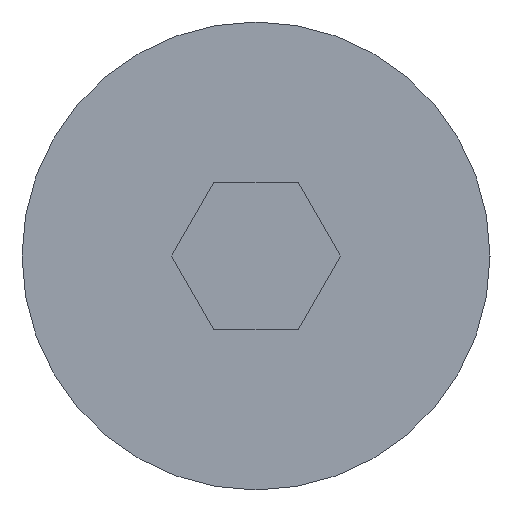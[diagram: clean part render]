
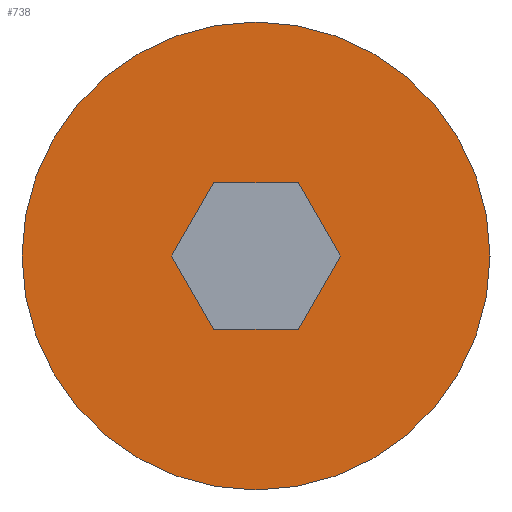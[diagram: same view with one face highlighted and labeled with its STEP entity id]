
A CAD part, left-side view. The second image highlights one B-rep face of the part: STEP entity #738.
In plain terms, the highlighted planar face has unit normal (-1, 0, 0).
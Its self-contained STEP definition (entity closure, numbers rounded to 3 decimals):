
#3 = DIRECTION ( 'NONE',  ( 0., -1., 0. ) ) ;
#18 = CARTESIAN_POINT ( 'NONE',  ( -121.3, 33.278, 84.75 ) ) ;
#44 = LINE ( 'NONE', #278, #562 ) ;
#45 = DIRECTION ( 'NONE',  ( 1., 0., 0. ) ) ;
#46 = LINE ( 'NONE', #446, #321 ) ;
#63 = ORIENTED_EDGE ( 'NONE', *, *, #170, .T. ) ;
#122 = PLANE ( 'NONE',  #162 ) ;
#127 = LINE ( 'NONE', #249, #202 ) ;
#128 = VERTEX_POINT ( 'NONE', #18 ) ;
#141 = AXIS2_PLACEMENT_3D ( 'NONE', #561, #45, #564 ) ;
#154 = DIRECTION ( 'NONE',  ( 0., 1., 0. ) ) ;
#162 = AXIS2_PLACEMENT_3D ( 'NONE', #646, #468, #353 ) ;
#163 = CARTESIAN_POINT ( 'NONE',  ( -121.3, 35.361, 84.75 ) ) ;
#165 = VERTEX_POINT ( 'NONE', #530 ) ;
#167 = DIRECTION ( 'NONE',  ( 0., -0.5, -0.866 ) ) ;
#170 = EDGE_CURVE ( 'NONE', #303, #165, #127, .T. ) ;
#185 = DIRECTION ( 'NONE',  ( 0., -0.5, 0.866 ) ) ;
#186 = VERTEX_POINT ( 'NONE', #586 ) ;
#189 = ORIENTED_EDGE ( 'NONE', *, *, #355, .T. ) ;
#202 = VECTOR ( 'NONE', #185, 1000. ) ;
#210 = EDGE_LOOP ( 'NONE', ( #382, #664 ) ) ;
#217 = ORIENTED_EDGE ( 'NONE', *, *, #375, .T. ) ;
#220 = CARTESIAN_POINT ( 'NONE',  ( -121.3, 34., 86. ) ) ;
#221 = LINE ( 'NONE', #163, #341 ) ;
#249 = CARTESIAN_POINT ( 'NONE',  ( -121.3, 35.152, 86.504 ) ) ;
#250 = FACE_OUTER_BOUND ( 'NONE', #210, .T. ) ;
#273 = CIRCLE ( 'NONE', #694, 4. ) ;
#278 = CARTESIAN_POINT ( 'NONE',  ( -121.3, 32.987, 86.746 ) ) ;
#280 = EDGE_CURVE ( 'NONE', #128, #333, #221, .T. ) ;
#286 = CARTESIAN_POINT ( 'NONE',  ( -121.3, 34.722, 84.75 ) ) ;
#290 = DIRECTION ( 'NONE',  ( 0., 1., 0. ) ) ;
#297 = EDGE_CURVE ( 'NONE', #333, #303, #392, .T. ) ;
#303 = VERTEX_POINT ( 'NONE', #521 ) ;
#315 = VERTEX_POINT ( 'NONE', #620 ) ;
#321 = VECTOR ( 'NONE', #673, 1000. ) ;
#333 = VERTEX_POINT ( 'NONE', #286 ) ;
#336 = DIRECTION ( 'NONE',  ( 0., 0.5, 0.866 ) ) ;
#341 = VECTOR ( 'NONE', #290, 1000. ) ;
#353 = DIRECTION ( 'NONE',  ( 0., 0., 1. ) ) ;
#355 = EDGE_CURVE ( 'NONE', #186, #128, #46, .T. ) ;
#375 = EDGE_CURVE ( 'NONE', #315, #186, #44, .T. ) ;
#382 = ORIENTED_EDGE ( 'NONE', *, *, #595, .F. ) ;
#384 = EDGE_CURVE ( 'NONE', #165, #315, #509, .T. ) ;
#392 = LINE ( 'NONE', #617, #472 ) ;
#421 = FACE_BOUND ( 'NONE', #578, .T. ) ;
#424 = CARTESIAN_POINT ( 'NONE',  ( -121.3, 34., 82. ) ) ;
#426 = VERTEX_POINT ( 'NONE', #745 ) ;
#429 = ORIENTED_EDGE ( 'NONE', *, *, #297, .T. ) ;
#439 = DIRECTION ( 'NONE',  ( 1., 0., 0. ) ) ;
#446 = CARTESIAN_POINT ( 'NONE',  ( -121.3, 33.348, 84.629 ) ) ;
#468 = DIRECTION ( 'NONE',  ( -1., 0., 0. ) ) ;
#472 = VECTOR ( 'NONE', #336, 1000. ) ;
#496 = EDGE_CURVE ( 'NONE', #675, #426, #668, .T. ) ;
#509 = LINE ( 'NONE', #681, #600 ) ;
#521 = CARTESIAN_POINT ( 'NONE',  ( -121.3, 35.443, 86. ) ) ;
#522 = ORIENTED_EDGE ( 'NONE', *, *, #384, .T. ) ;
#530 = CARTESIAN_POINT ( 'NONE',  ( -121.3, 34.722, 87.25 ) ) ;
#561 = CARTESIAN_POINT ( 'NONE',  ( -121.3, 34., 86. ) ) ;
#562 = VECTOR ( 'NONE', #167, 1000. ) ;
#564 = DIRECTION ( 'NONE',  ( 0., 1., 0. ) ) ;
#578 = EDGE_LOOP ( 'NONE', ( #63, #522, #217, #189, #705, #429 ) ) ;
#586 = CARTESIAN_POINT ( 'NONE',  ( -121.3, 32.557, 86. ) ) ;
#595 = EDGE_CURVE ( 'NONE', #426, #675, #273, .T. ) ;
#600 = VECTOR ( 'NONE', #3, 1000. ) ;
#617 = CARTESIAN_POINT ( 'NONE',  ( -121.3, 35.513, 86.121 ) ) ;
#620 = CARTESIAN_POINT ( 'NONE',  ( -121.3, 33.278, 87.25 ) ) ;
#646 = CARTESIAN_POINT ( 'NONE',  ( -121.3, 36., 86. ) ) ;
#664 = ORIENTED_EDGE ( 'NONE', *, *, #496, .F. ) ;
#668 = CIRCLE ( 'NONE', #141, 4. ) ;
#673 = DIRECTION ( 'NONE',  ( 0., 0.5, -0.866 ) ) ;
#675 = VERTEX_POINT ( 'NONE', #424 ) ;
#681 = CARTESIAN_POINT ( 'NONE',  ( -121.3, 34.639, 87.25 ) ) ;
#694 = AXIS2_PLACEMENT_3D ( 'NONE', #220, #439, #154 ) ;
#705 = ORIENTED_EDGE ( 'NONE', *, *, #280, .T. ) ;
#738 = ADVANCED_FACE ( 'NONE', ( #250, #421 ), #122, .T. ) ;
#745 = CARTESIAN_POINT ( 'NONE',  ( -121.3, 34., 90. ) ) ;
